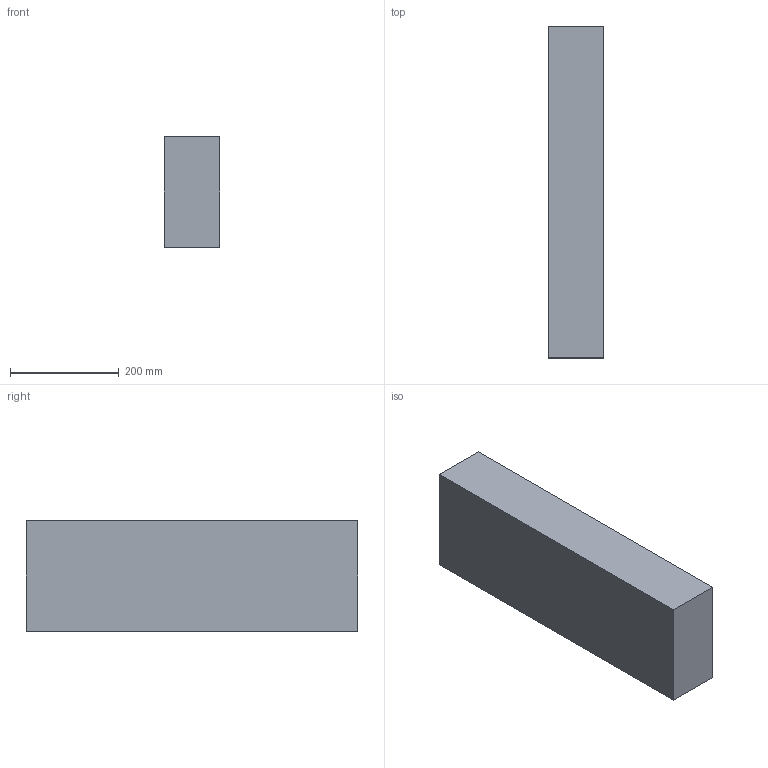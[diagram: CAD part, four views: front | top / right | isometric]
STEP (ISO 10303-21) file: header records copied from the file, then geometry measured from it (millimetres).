
FILE_DESCRIPTION(/* description */ (''),/* implementation_level */ '2;1');
FILE_NAME(/* name */ '4x8x24',/* time_stamp */ '2024-09-20T11:45:21-05:00',/* author */ (''),/* organization */ (''),/* preprocessor_version */ 'ST-DEVELOPER v19.2',/* originating_system */ 'Rhino 8.5',/* authorisation */ '');
FILE_SCHEMA (('CONFIG_CONTROL_DESIGN'));
Length unit declared in the file: inch
Products named in the file (1): Document
Bounding box: 101.6 x 609.6 x 203.2 mm (x, y, z)
Volume: 12585265.2 mm3; surface area: 412902.4 mm2
Topology: 1 solids, 1 shells, 6 faces, 12 edges, 8 vertices
Faces by surface type: plane 6
Entity records: 226 total; most frequent: CARTESIAN_POINT 40, ORIENTED_EDGE 24, EDGE_CURVE 12, B_SPLINE_CURVE_WITH_KNOTS 12, DIRECTION 10, VERTEX_POINT 8, AXIS2_PLACEMENT_3D 8, ORGANIZATION 7
